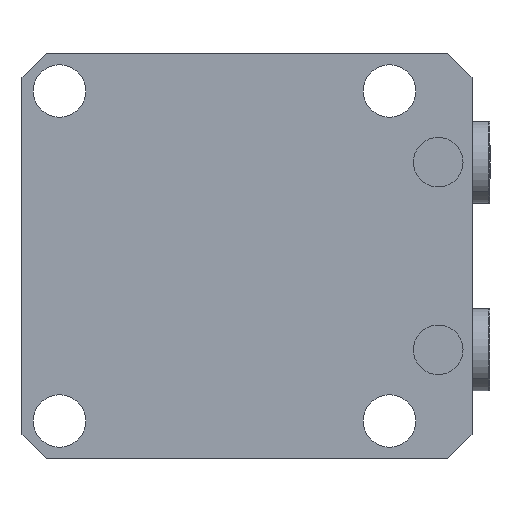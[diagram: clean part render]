
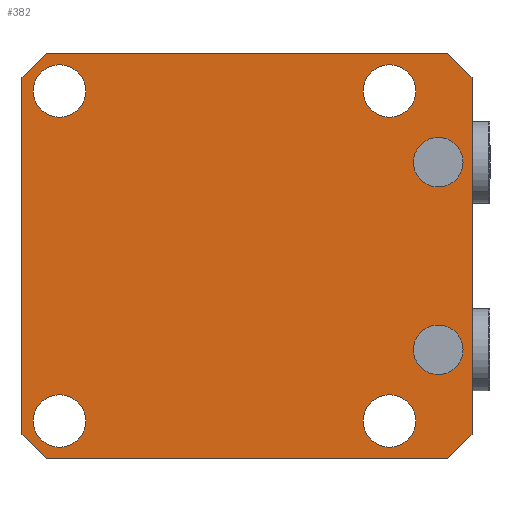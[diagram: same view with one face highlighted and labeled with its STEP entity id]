
A CAD part, front view. The second image highlights one B-rep face of the part: STEP entity #382.
In plain terms, the highlighted planar face has unit normal (0, -1, 0).
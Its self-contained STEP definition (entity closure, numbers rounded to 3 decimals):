
#153=FACE_BOUND('',#936,.T.);
#154=FACE_BOUND('',#937,.T.);
#155=FACE_BOUND('',#938,.T.);
#156=FACE_BOUND('',#939,.T.);
#157=FACE_BOUND('',#940,.T.);
#158=FACE_BOUND('',#941,.T.);
#159=FACE_BOUND('',#942,.T.);
#221=PLANE('',#4180);
#382=ADVANCED_FACE('',(#153,#154,#155,#156,#157,#158,#159),#221,.T.);
#936=EDGE_LOOP('',(#1951,#1952));
#937=EDGE_LOOP('',(#1953,#1954));
#938=EDGE_LOOP('',(#1955,#1956));
#939=EDGE_LOOP('',(#1957,#1958));
#940=EDGE_LOOP('',(#1959,#1960));
#941=EDGE_LOOP('',(#1961,#1962));
#942=EDGE_LOOP('',(#1963,#1964,#1965,#1966,#1967,#1968,#1969,#1970));
#1246=LINE('',#6160,#1536);
#1253=LINE('',#6183,#1543);
#1260=LINE('',#6197,#1550);
#1269=LINE('',#6225,#1559);
#1271=LINE('',#6236,#1561);
#1272=LINE('',#6237,#1562);
#1273=LINE('',#6238,#1563);
#1274=LINE('',#6239,#1564);
#1536=VECTOR('',#4804,1.);
#1543=VECTOR('',#4837,1.);
#1550=VECTOR('',#4846,1.);
#1559=VECTOR('',#4857,1.);
#1561=VECTOR('',#4865,1.);
#1562=VECTOR('',#4866,1.);
#1563=VECTOR('',#4867,1.);
#1564=VECTOR('',#4868,1.);
#1951=ORIENTED_EDGE('',*,*,#3424,.F.);
#1952=ORIENTED_EDGE('',*,*,#3279,.F.);
#1953=ORIENTED_EDGE('',*,*,#3425,.F.);
#1954=ORIENTED_EDGE('',*,*,#3283,.F.);
#1955=ORIENTED_EDGE('',*,*,#3401,.T.);
#1956=ORIENTED_EDGE('',*,*,#3325,.T.);
#1957=ORIENTED_EDGE('',*,*,#3397,.T.);
#1958=ORIENTED_EDGE('',*,*,#3333,.T.);
#1959=ORIENTED_EDGE('',*,*,#3395,.T.);
#1960=ORIENTED_EDGE('',*,*,#3337,.T.);
#1961=ORIENTED_EDGE('',*,*,#3399,.T.);
#1962=ORIENTED_EDGE('',*,*,#3329,.T.);
#1963=ORIENTED_EDGE('',*,*,#3388,.F.);
#1964=ORIENTED_EDGE('',*,*,#3426,.T.);
#1965=ORIENTED_EDGE('',*,*,#3403,.F.);
#1966=ORIENTED_EDGE('',*,*,#3427,.T.);
#1967=ORIENTED_EDGE('',*,*,#3410,.F.);
#1968=ORIENTED_EDGE('',*,*,#3428,.T.);
#1969=ORIENTED_EDGE('',*,*,#3421,.F.);
#1970=ORIENTED_EDGE('',*,*,#3429,.T.);
#2905=VERTEX_POINT('',#5906);
#2906=VERTEX_POINT('',#5908);
#2909=VERTEX_POINT('',#5915);
#2910=VERTEX_POINT('',#5917);
#2947=VERTEX_POINT('',#6027);
#2948=VERTEX_POINT('',#6028);
#2951=VERTEX_POINT('',#6036);
#2952=VERTEX_POINT('',#6037);
#2955=VERTEX_POINT('',#6045);
#2956=VERTEX_POINT('',#6046);
#2959=VERTEX_POINT('',#6054);
#2960=VERTEX_POINT('',#6055);
#2998=VERTEX_POINT('',#6159);
#2999=VERTEX_POINT('',#6161);
#3002=VERTEX_POINT('',#6184);
#3003=VERTEX_POINT('',#6185);
#3008=VERTEX_POINT('',#6198);
#3009=VERTEX_POINT('',#6199);
#3017=VERTEX_POINT('',#6224);
#3018=VERTEX_POINT('',#6226);
#3279=EDGE_CURVE('',#2905,#2906,#3848,.T.);
#3283=EDGE_CURVE('',#2909,#2910,#3850,.T.);
#3325=EDGE_CURVE('',#2947,#2948,#3865,.T.);
#3329=EDGE_CURVE('',#2951,#2952,#3867,.T.);
#3333=EDGE_CURVE('',#2955,#2956,#3869,.T.);
#3337=EDGE_CURVE('',#2959,#2960,#3871,.T.);
#3388=EDGE_CURVE('',#2998,#2999,#1246,.T.);
#3395=EDGE_CURVE('',#2960,#2959,#3875,.T.);
#3397=EDGE_CURVE('',#2956,#2955,#3877,.T.);
#3399=EDGE_CURVE('',#2952,#2951,#3879,.T.);
#3401=EDGE_CURVE('',#2948,#2947,#3881,.T.);
#3403=EDGE_CURVE('',#3002,#3003,#1253,.T.);
#3410=EDGE_CURVE('',#3008,#3009,#1260,.T.);
#3421=EDGE_CURVE('',#3017,#3018,#1269,.T.);
#3424=EDGE_CURVE('',#2906,#2905,#3883,.T.);
#3425=EDGE_CURVE('',#2910,#2909,#3884,.T.);
#3426=EDGE_CURVE('',#2998,#3003,#1271,.T.);
#3427=EDGE_CURVE('',#3002,#3009,#1272,.T.);
#3428=EDGE_CURVE('',#3008,#3018,#1273,.T.);
#3429=EDGE_CURVE('',#3017,#2999,#1274,.T.);
#3848=CIRCLE('',#4110,6.6);
#3850=CIRCLE('',#4113,6.6);
#3865=CIRCLE('',#4139,7.);
#3867=CIRCLE('',#4142,7.);
#3869=CIRCLE('',#4145,7.);
#3871=CIRCLE('',#4148,7.);
#3875=CIRCLE('',#4163,7.);
#3877=CIRCLE('',#4166,7.);
#3879=CIRCLE('',#4169,7.);
#3881=CIRCLE('',#4172,7.);
#3883=CIRCLE('',#4178,6.6);
#3884=CIRCLE('',#4179,6.6);
#4110=AXIS2_PLACEMENT_3D('',#5907,#4626,#4627);
#4113=AXIS2_PLACEMENT_3D('',#5916,#4634,#4635);
#4139=AXIS2_PLACEMENT_3D('',#6026,#4707,#4708);
#4142=AXIS2_PLACEMENT_3D('',#6035,#4715,#4716);
#4145=AXIS2_PLACEMENT_3D('',#6044,#4723,#4724);
#4148=AXIS2_PLACEMENT_3D('',#6053,#4731,#4732);
#4163=AXIS2_PLACEMENT_3D('',#6171,#4813,#4814);
#4166=AXIS2_PLACEMENT_3D('',#6174,#4819,#4820);
#4169=AXIS2_PLACEMENT_3D('',#6177,#4825,#4826);
#4172=AXIS2_PLACEMENT_3D('',#6180,#4831,#4832);
#4178=AXIS2_PLACEMENT_3D('',#6234,#4861,#4862);
#4179=AXIS2_PLACEMENT_3D('',#6235,#4863,#4864);
#4180=AXIS2_PLACEMENT_3D('',#6240,#4869,#4870);
#4626=DIRECTION('',(0.,-1.,0.));
#4627=DIRECTION('',(0.,0.,-1.));
#4634=DIRECTION('',(0.,-1.,0.));
#4635=DIRECTION('',(0.,0.,-1.));
#4707=DIRECTION('',(0.,1.,0.));
#4708=DIRECTION('',(0.,0.,-1.));
#4715=DIRECTION('',(0.,1.,0.));
#4716=DIRECTION('',(0.,0.,-1.));
#4723=DIRECTION('',(0.,1.,0.));
#4724=DIRECTION('',(0.,0.,-1.));
#4731=DIRECTION('',(0.,1.,0.));
#4732=DIRECTION('',(0.,0.,-1.));
#4804=DIRECTION('',(-1.,0.,0.));
#4813=DIRECTION('',(0.,1.,0.));
#4814=DIRECTION('',(0.,0.,-1.));
#4819=DIRECTION('',(0.,1.,0.));
#4820=DIRECTION('',(0.,0.,-1.));
#4825=DIRECTION('',(0.,1.,0.));
#4826=DIRECTION('',(0.,0.,-1.));
#4831=DIRECTION('',(0.,1.,0.));
#4832=DIRECTION('',(0.,0.,-1.));
#4837=DIRECTION('',(0.,0.,-1.));
#4846=DIRECTION('',(1.,0.,0.));
#4857=DIRECTION('',(0.,0.,1.));
#4861=DIRECTION('',(0.,-1.,0.));
#4862=DIRECTION('',(0.,0.,-1.));
#4863=DIRECTION('',(0.,-1.,0.));
#4864=DIRECTION('',(0.,0.,-1.));
#4865=DIRECTION('',(0.707,0.,0.707));
#4866=DIRECTION('',(-0.707,0.,0.707));
#4867=DIRECTION('',(-0.707,0.,-0.707));
#4868=DIRECTION('',(0.707,0.,-0.707));
#4869=DIRECTION('',(0.,-1.,0.));
#4870=DIRECTION('',(0.,0.,-1.));
#5906=CARTESIAN_POINT('',(-57.,-112.,-18.4));
#5907=CARTESIAN_POINT('',(-57.,-112.,-25.));
#5908=CARTESIAN_POINT('',(-57.,-112.,-31.6));
#5915=CARTESIAN_POINT('',(-57.,-112.,31.6));
#5916=CARTESIAN_POINT('',(-57.,-112.,25.));
#5917=CARTESIAN_POINT('',(-57.,-112.,18.4));
#6026=CARTESIAN_POINT('',(-44.,-112.,-44.));
#6027=CARTESIAN_POINT('',(-44.,-112.,-51.));
#6028=CARTESIAN_POINT('',(-44.,-112.,-37.));
#6035=CARTESIAN_POINT('',(44.,-112.,44.));
#6036=CARTESIAN_POINT('',(44.,-112.,37.));
#6037=CARTESIAN_POINT('',(44.,-112.,51.));
#6044=CARTESIAN_POINT('',(-44.,-112.,44.));
#6045=CARTESIAN_POINT('',(-44.,-112.,37.));
#6046=CARTESIAN_POINT('',(-44.,-112.,51.));
#6053=CARTESIAN_POINT('',(44.,-112.,-44.));
#6054=CARTESIAN_POINT('',(44.,-112.,-51.));
#6055=CARTESIAN_POINT('',(44.,-112.,-37.));
#6159=CARTESIAN_POINT('',(47.5,-112.,-54.));
#6160=CARTESIAN_POINT('',(54.,-112.,-54.));
#6161=CARTESIAN_POINT('',(-59.5,-112.,-54.));
#6171=CARTESIAN_POINT('',(44.,-112.,-44.));
#6174=CARTESIAN_POINT('',(-44.,-112.,44.));
#6177=CARTESIAN_POINT('',(44.,-112.,44.));
#6180=CARTESIAN_POINT('',(-44.,-112.,-44.));
#6183=CARTESIAN_POINT('',(54.,-112.,-54.));
#6184=CARTESIAN_POINT('',(54.,-112.,47.5));
#6185=CARTESIAN_POINT('',(54.,-112.,-47.5));
#6197=CARTESIAN_POINT('',(54.,-112.,54.));
#6198=CARTESIAN_POINT('',(-59.5,-112.,54.));
#6199=CARTESIAN_POINT('',(47.5,-112.,54.));
#6224=CARTESIAN_POINT('',(-66.,-112.,-47.5));
#6225=CARTESIAN_POINT('',(-66.,-112.,54.));
#6226=CARTESIAN_POINT('',(-66.,-112.,47.5));
#6234=CARTESIAN_POINT('',(-57.,-112.,-25.));
#6235=CARTESIAN_POINT('',(-57.,-112.,25.));
#6236=CARTESIAN_POINT('',(104.75,-112.,3.25));
#6237=CARTESIAN_POINT('',(50.75,-112.,50.75));
#6238=CARTESIAN_POINT('',(-2.75,-112.,110.75));
#6239=CARTESIAN_POINT('',(-56.75,-112.,-56.75));
#6240=CARTESIAN_POINT('',(54.,-112.,54.));
